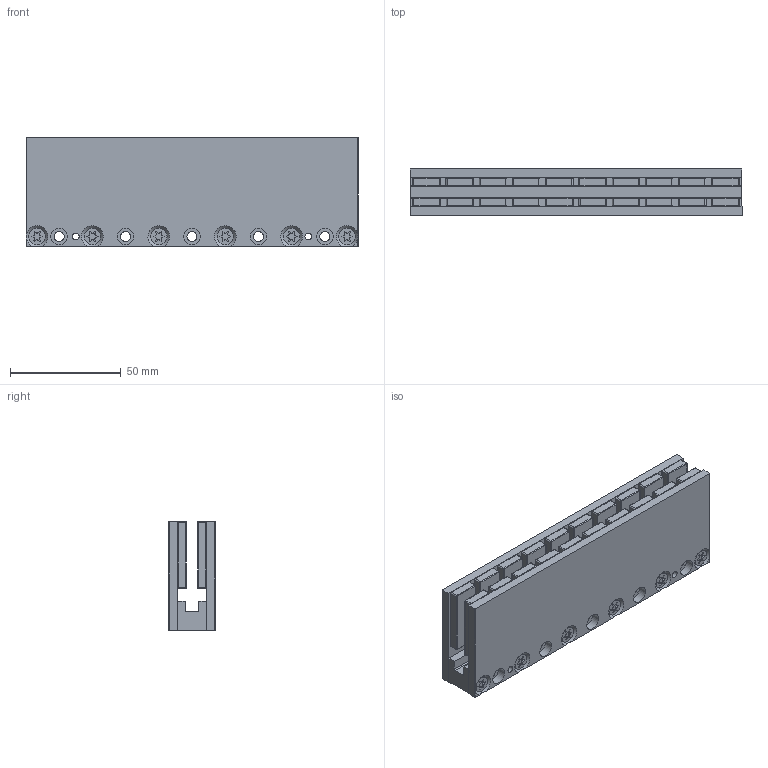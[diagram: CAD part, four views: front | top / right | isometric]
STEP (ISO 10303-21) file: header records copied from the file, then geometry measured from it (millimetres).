
FILE_DESCRIPTION( ( '-' ), '1' );
FILE_NAME( 'C:/Users/peikelboom/Desktop/STEP Files/Ironless/UM/Iron Less_UM 150 mm_MagnetYoke 160607.stp', '20-04-2016', ( 'P.Eikelboom' ), ( 'Technotion' ), 'PSStep 16.0.42', '-', ' ' );
FILE_SCHEMA( ( 'AUTOMOTIVE_DESIGN { 1 0 10303 214 1 1 1 1 }' ) );
Length unit declared in the file: millimetre
Products named in the file (1): 4022 363 50134_130705-oa8
Bounding box: 149.93 x 21.1 x 49.01 mm (x, y, z)
Surface area: 45008 mm2 (no closed solid volume)
Topology: 0 solids, 993 shells, 993 faces, 4685 edges, 4572 vertices
Faces by surface type: cylinder 449, plane 334, bspline 160, cone 50
Full cylindrical faces by diameter (mm): 3 x6, 3.3 x6, 4 x12, 4.5 x17, 7.4 x12, 7.5 x10
Entity records: 56530 total; most frequent: CARTESIAN_POINT 12698, DIRECTION 8344, ORIENTED_EDGE 4508, EDGE_CURVE 4508, VERTEX_POINT 4508, AXIS2_PLACEMENT_3D 3034, LINE 2276, VECTOR 2276
